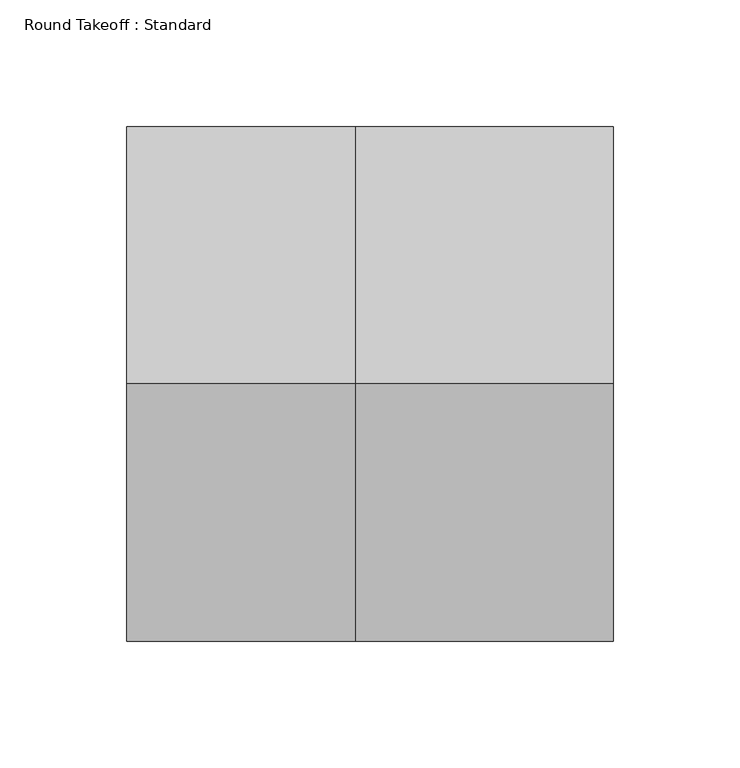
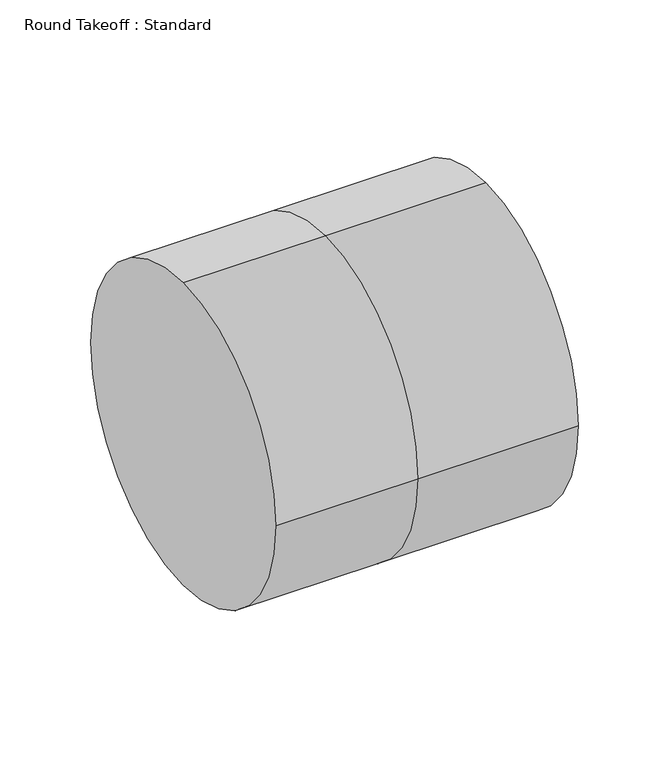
"""IFC4 building model written with IfcOpenShell, lengths in millimetres: duct fitting geometry, Round Takeoff : Standard."""

from ifc_helpers import new_model, si_unit, frame, origin, place, context, project, spatial, circle_curve, source, transform, mapped, element, save
from ifc_brep_helpers import plane_surface, cylinder_surface, advanced_brep


def round_takeoff_standard_275da0e0(model_context):
    return source(origin(), model_context, "Body", "AdvancedBrep", [
        advanced_brep(
        [(101.6, 0.0, 101.6), (101.6, -101.6, 0.0), (101.6, 0.0, -101.6), (101.6, 101.6, 0.0), (0.0, 0.0, 101.6), (0.0, -101.6, 0.0), (0.0, 0.0, -101.6), (0.0, 101.6, 0.0), (-90.5294031, 0.0, 101.6), (-90.5294031, 101.6, 0.0), (-90.5294031, 0.0, -101.6), (-90.5294031, -101.6, 0.0)],
        [
            (0, 1, circle_curve(frame((101.6, 0.0, 0.0), z_axis=(1.0, 0.0, 0.0), x_axis=(0.0, -1.0, 0.0)), 101.6)),
            (1, 2, circle_curve(frame((101.6, 0.0, 0.0), z_axis=(1.0, 0.0, 0.0), x_axis=(0.0, -1.0, 0.0)), 101.6)),
            (2, 3, circle_curve(frame((101.6, 0.0, 0.0), z_axis=(1.0, 0.0, 0.0), x_axis=(0.0, -1.0, 0.0)), 101.6)),
            (3, 0, circle_curve(frame((101.6, 0.0, 0.0), z_axis=(1.0, 0.0, 0.0), x_axis=(0.0, -1.0, 0.0)), 101.6)),
            (0, 4),
            (4, 5, circle_curve(frame((0.0, 0.0, 0.0), z_axis=(1.0, 0.0, 0.0), x_axis=(0.0, -1.0, 0.0)), 101.6)),
            (5, 1),
            (5, 6, circle_curve(frame((0.0, 0.0, 0.0), z_axis=(1.0, 0.0, 0.0), x_axis=(0.0, -1.0, 0.0)), 101.6)),
            (6, 2),
            (6, 7, circle_curve(frame((0.0, 0.0, 0.0), z_axis=(1.0, 0.0, 0.0), x_axis=(0.0, -1.0, 0.0)), 101.6)),
            (7, 3),
            (7, 4, circle_curve(frame((0.0, 0.0, 0.0), z_axis=(1.0, 0.0, 0.0), x_axis=(0.0, -1.0, 0.0)), 101.6)),
            (8, 9, circle_curve(frame((-90.5294031, 0.0, 0.0), z_axis=(-1.0, 0.0, 0.0), x_axis=(0.0, -1.0, 0.0)), 101.6)),
            (9, 10, circle_curve(frame((-90.5294031, 0.0, 0.0), z_axis=(-1.0, 0.0, 0.0), x_axis=(0.0, -1.0, 0.0)), 101.6)),
            (10, 11, circle_curve(frame((-90.5294031, 0.0, 0.0), z_axis=(-1.0, 0.0, 0.0), x_axis=(0.0, -1.0, 0.0)), 101.6)),
            (11, 8, circle_curve(frame((-90.5294031, 0.0, 0.0), z_axis=(-1.0, 0.0, 0.0), x_axis=(0.0, -1.0, 0.0)), 101.6)),
            (11, 5),
            (4, 8),
            (10, 6),
            (9, 7),
        ],
        [
            plane_surface(frame((101.6, 0.0, 0.0), z_axis=(1.0, 0.0, 0.0), x_axis=(0.0, 0.0, 1.0))),
            cylinder_surface(frame((0.0, 0.0, 0.0), z_axis=(-1.0, 0.0, 0.0), x_axis=(0.0, -1.0, 0.0)), 101.6),
            plane_surface(frame((-90.5294031, 0.0, 0.0), z_axis=(-1.0, 0.0, 0.0), x_axis=(0.0, 0.0, 1.0))),
            cylinder_surface(frame((-90.5294031, 0.0, 0.0), z_axis=(-1.0, 0.0, 0.0), x_axis=(0.0, -1.0, 0.0)), 101.6),
        ],
        [
            (0, [[1, 2, 3, 4]]),
            (1, [[5, 6, 7, -1]]),
            (1, [[-7, 8, 9, -2]]),
            (1, [[-9, 10, 11, -3]]),
            (1, [[-11, 12, -5, -4]]),
            (2, [[13, 14, 15, 16]]),
            (3, [[17, -6, 18, -16]]),
            (3, [[19, -8, -17, -15]]),
            (3, [[20, -10, -19, -14]]),
            (3, [[-18, -12, -20, -13]]),
        ],
    ),
    ])


if __name__ == "__main__":
    model = new_model("IFC4")
    model_context = context("Model", 3, world=origin())
    ifc_project = project(units=[si_unit("LENGTHUNIT", "METRE", prefix="MILLI")], contexts=[model_context])
    site = spatial("IfcSite", under=ifc_project)
    building = spatial("IfcBuilding", under=site)
    placement = place(None, origin())
    round_takeoff_standard_shape = round_takeoff_standard_275da0e0(model_context)
    element("IfcDuctFitting", 1, ObjectType="Round Takeoff : Standard", at=placement, inside=building, context=model_context, shape_type="MappedRepresentation", body=[
        mapped(round_takeoff_standard_shape, transform((0.0, 0.0, 0.0), x_axis=(1.0, 0.0, 0.0), y_axis=(0.0, 1.0, 0.0), z_axis=(0.0, 0.0, 1.0))),
    ])
    save(model, "model.ifc")
